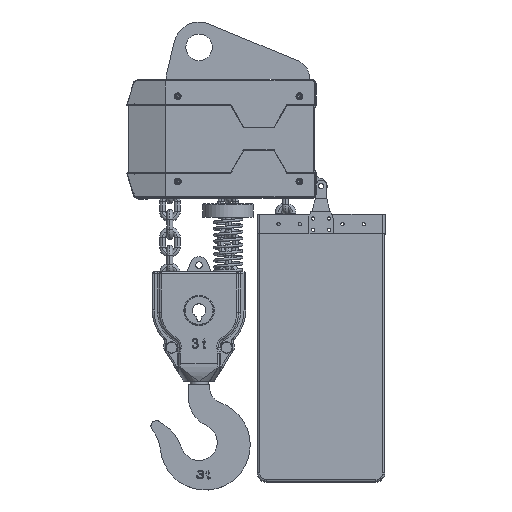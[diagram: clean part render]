
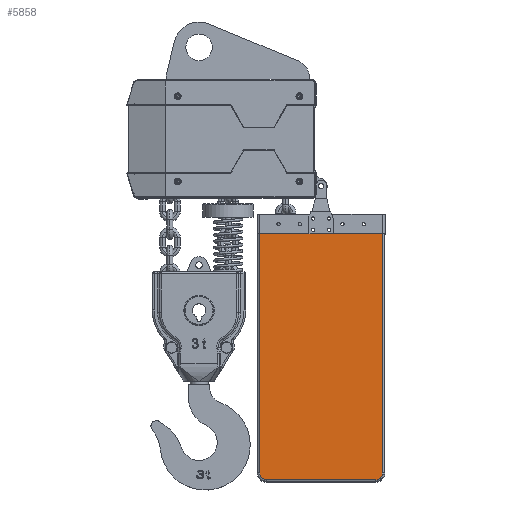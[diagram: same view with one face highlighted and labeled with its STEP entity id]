
A CAD part, top view. The second image highlights one B-rep face of the part: STEP entity #5858.
In plain terms, the highlighted planar face has unit normal (0, 0, 1).
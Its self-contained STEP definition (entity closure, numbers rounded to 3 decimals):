
#2278=CIRCLE('',#54363,11.);
#2279=CIRCLE('',#54364,11.);
#5858=ADVANCED_FACE('',(#10047),#8924,.T.);
#8924=PLANE('',#54365);
#10047=FACE_OUTER_BOUND('',#12870,.T.);
#12870=EDGE_LOOP('',(#17610,#17611,#17612,#17613,#17614,#17615));
#17610=ORIENTED_EDGE('',*,*,#38004,.T.);
#17611=ORIENTED_EDGE('',*,*,#38005,.T.);
#17612=ORIENTED_EDGE('',*,*,#38006,.T.);
#17613=ORIENTED_EDGE('',*,*,#38007,.T.);
#17614=ORIENTED_EDGE('',*,*,#38008,.T.);
#17615=ORIENTED_EDGE('',*,*,#38009,.T.);
#33131=VERTEX_POINT('',#79986);
#33132=VERTEX_POINT('',#79987);
#33133=VERTEX_POINT('',#79989);
#33134=VERTEX_POINT('',#79991);
#33135=VERTEX_POINT('',#79993);
#33136=VERTEX_POINT('',#79995);
#38004=EDGE_CURVE('',#33131,#33132,#45777,.T.);
#38005=EDGE_CURVE('',#33132,#33133,#45778,.T.);
#38006=EDGE_CURVE('',#33133,#33134,#45779,.T.);
#38007=EDGE_CURVE('',#33134,#33135,#2278,.T.);
#38008=EDGE_CURVE('',#33135,#33136,#45780,.T.);
#38009=EDGE_CURVE('',#33136,#33131,#2279,.T.);
#45777=LINE('',#79985,#50002);
#45778=LINE('',#79988,#50003);
#45779=LINE('',#79990,#50004);
#45780=LINE('',#79994,#50005);
#50002=VECTOR('',#59921,1.);
#50003=VECTOR('',#59922,1.);
#50004=VECTOR('',#59923,1.);
#50005=VECTOR('',#59926,1.);
#54363=AXIS2_PLACEMENT_3D('',#79992,#59924,#59925);
#54364=AXIS2_PLACEMENT_3D('',#79996,#59927,#59928);
#54365=AXIS2_PLACEMENT_3D('',#79997,#59929,#59930);
#59921=DIRECTION('',(0.,1.,0.));
#59922=DIRECTION('',(-1.,0.,0.));
#59923=DIRECTION('',(0.,-1.,0.));
#59924=DIRECTION('',(0.,0.,1.));
#59925=DIRECTION('',(1.,0.,0.));
#59926=DIRECTION('',(1.,0.,0.));
#59927=DIRECTION('',(0.,0.,1.));
#59928=DIRECTION('',(1.,0.,0.));
#59929=DIRECTION('',(0.,0.,1.));
#59930=DIRECTION('',(1.,0.,0.));
#79985=CARTESIAN_POINT('',(1920.462,56.396,196.375));
#79986=CARTESIAN_POINT('',(1920.462,-249.604,196.375));
#79987=CARTESIAN_POINT('',(1920.462,143.396,196.375));
#79988=CARTESIAN_POINT('',(1744.812,143.396,196.375));
#79989=CARTESIAN_POINT('',(1718.662,143.396,196.375));
#79990=CARTESIAN_POINT('',(1718.662,56.396,196.375));
#79991=CARTESIAN_POINT('',(1718.662,-249.604,196.375));
#79992=CARTESIAN_POINT('',(1729.662,-249.604,196.375));
#79993=CARTESIAN_POINT('',(1729.662,-260.604,196.375));
#79994=CARTESIAN_POINT('',(1909.462,-260.604,196.375));
#79995=CARTESIAN_POINT('',(1909.462,-260.604,196.375));
#79996=CARTESIAN_POINT('',(1909.462,-249.604,196.375));
#79997=CARTESIAN_POINT('',(1744.812,56.396,196.375));
